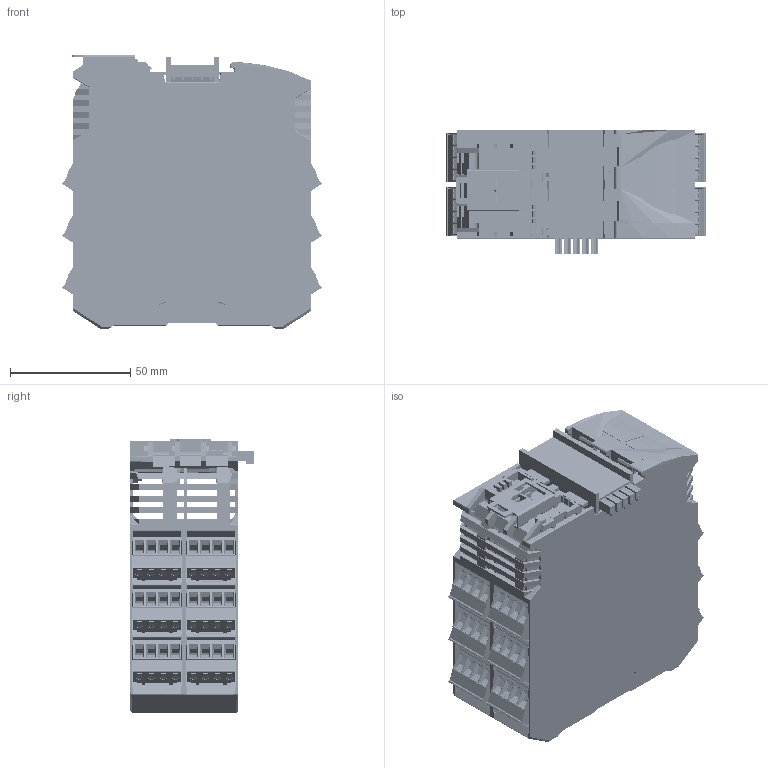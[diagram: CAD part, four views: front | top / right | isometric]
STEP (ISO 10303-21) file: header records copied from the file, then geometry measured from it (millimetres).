
FILE_DESCRIPTION(('STEP AP214'), '1');
FILE_NAME('äëÿ ñòåïêÓÀè NLS-8RS485-Ethernet-PoE ûâ', '2026-06-08T08:24:28', (''), (''), 'C3D Converter', 'C3D Toolkit', '');
FILE_SCHEMA(('AUTOMOTIVE_DESIGN { 1 0 10303 214 3 1 1}'));
Length unit declared in the file: millimetre
Bounding box: 107.97 x 51.8 x 114.2 mm (x, y, z)
Topology: 57 solids, 82 shells, 20412 faces, 58151 edges, 38144 vertices
Faces by surface type: plane 14018, extrusion 2968, cylinder 2805, torus 231, cone 191, sphere 117, bspline 60, revolution 22
Full cylindrical faces by diameter (mm): 0.6 x4, 0.8 x10, 1 x2, 1.4 x48, 1.5 x47, 1.6 x21, 2 x26, 2.5 x1, 2.8 x25, 3 x64, 3.1 x48, 4 x96, 4.5 x1
Entity records: 860402 total; most frequent: CARTESIAN_POINT 179952, ORIENTED_EDGE 114665, DIRECTION 92172, EDGE_CURVE 57345, VECTOR 46762, LINE 43794, VERTEX_POINT 38135, AXIS2_PLACEMENT_3D 22694
